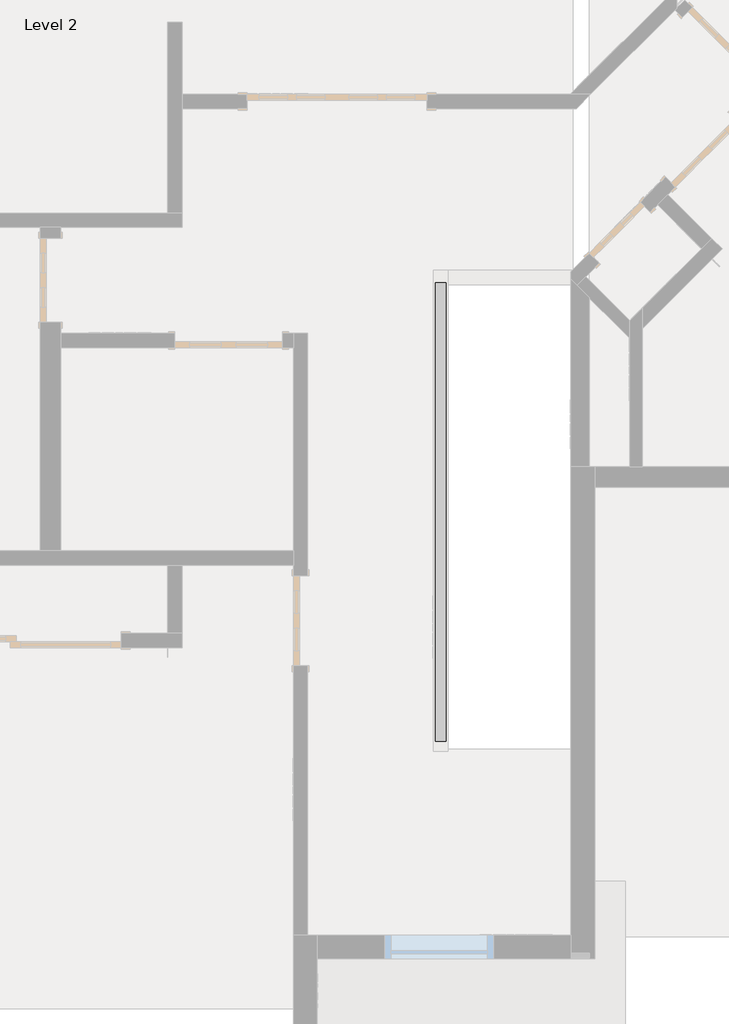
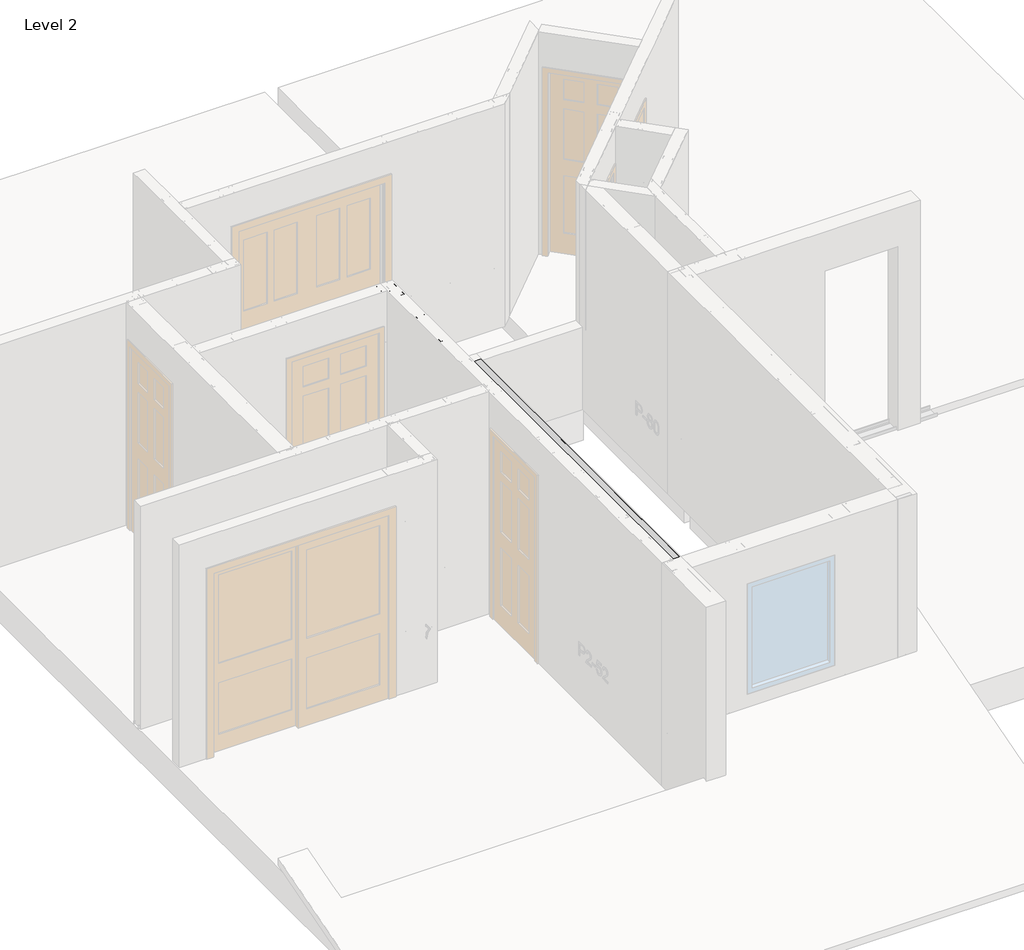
# One storey, part 15 of 46: 8 columns, 3 beams.
"""IFC4 building model written with IfcOpenShell, lengths in millimetres."""

from ifc_helpers import new_model, si_unit, point, frame, origin, place, context, project, spatial, circle_curve, ellipse_curve, trimmed, transform, mapped, element, save
from ifc_brep_helpers import plane_surface, extruded_surface, advanced_brep
from components import beam_350nf150_33_de9c2924, beam_350nf150_33_13dd2c0c, column_350nf150_33_a93e9d8a

model = new_model("IFC4")

# Units and contexts
model_context = context("Model", 3, world=origin())
ifc_project = project(units=[si_unit("LENGTHUNIT", "METRE", prefix="MILLI")], contexts=[model_context])

# Site, building, storey
site = spatial("IfcSite", under=ifc_project)
building = spatial("IfcBuilding", under=site)
storey = spatial("IfcBuildingStorey", under=building, Name="Level 2", Elevation=3060.7)

# Beams
placement = place(None, origin())
beam_350nf150_33_shape = beam_350nf150_33_de9c2924(model_context)
element("IfcBeam", 1, ObjectType="BIMSF-SSMA-S : 350NF150-33", at=placement, inside=storey, context=model_context, shape_type="MappedRepresentation", body=[
    mapped(beam_350nf150_33_shape, transform((-10222.0413349, 6158.4401581, 3959.225), x_axis=(0.0, 1.0, 0.0), y_axis=(0.0, 0.0, 1.0), z_axis=(1.0, 0.0, 0.0))),
])
element("IfcBeam", 2, ObjectType="BIMSF-SSMA-S : 350NF150-33", at=placement, inside=storey, context=model_context, shape_type="MappedRepresentation", body=[
    mapped(beam_350nf150_33_shape, transform((-10222.0413349, 6158.4401581, 3076.575), x_axis=(0.0, 1.0000000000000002, 0.0), y_axis=(0.0, 0.0, -1.0000000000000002), z_axis=(-1.0000000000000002, 0.0, 0.0))),
])
beam_350nf150_33_2_shape = beam_350nf150_33_13dd2c0c(model_context)
element("IfcBeam", 3, ObjectType="BIMSF-SSMA-S : 350NF150-33", at=placement, inside=storey, context=model_context, shape_type="MappedRepresentation", body=[
    mapped(beam_350nf150_33_2_shape, transform((-11462.6725849, 7610.602221, 3076.575), x_axis=(1.0000000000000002, 0.0, 0.0), y_axis=(0.0, 0.0, -1.0000000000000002), z_axis=(0.0, 1.0000000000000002, 0.0))),
])

# Columns
element("IfcColumn", 4, ObjectType="BIMSF-SSMA-S-Column : 350NF150-33", at=placement, inside=storey, context=model_context, shape_type="AdvancedBrep", body=[
    advanced_brep(
    [(-11453.9413349, 7566.152221, 3061.5929687), (-11365.0413349, 7566.152221, 3061.5929687), (-11365.0413349, 7528.052221, 3061.5929687), (-11370.6988507, 7528.052221, 3061.5929687), (-11370.6988507, 7528.9345367, 3061.5929687), (-11365.9236507, 7528.9345367, 3061.5929687), (-11365.9236507, 7565.2699052, 3061.5929687), (-11453.0590191, 7565.2699052, 3061.5929687), (-11453.0590191, 7528.9345367, 3061.5929687), (-11448.2838191, 7528.9345367, 3061.5929687), (-11448.2838191, 7528.052221, 3061.5929687), (-11453.9413349, 7528.052221, 3061.5929687), (-11453.9413349, 7566.152221, 5523.6070313), (-11365.0413349, 7566.152221, 5523.6070313), (-11396.7913349, 7566.152221, 3671.1929688), (-11422.1913349, 7566.152221, 3671.1929688), (-11396.7913349, 7566.152221, 4890.3929687), (-11422.1913349, 7566.152221, 4890.3929687), (-11365.0413349, 7528.052221, 5523.6070313), (-11370.6988507, 7528.052221, 5523.6070313), (-11370.6988507, 7528.9345367, 5523.6070313), (-11365.9236507, 7528.9345367, 5523.6070313), (-11365.9236507, 7565.2699052, 5523.6070313), (-11453.0590191, 7565.2699052, 5523.6070313), (-11422.1913349, 7565.2699052, 3671.1929688), (-11396.7913349, 7565.2699052, 3671.1929688), (-11422.1913349, 7565.2699052, 4890.3929687), (-11396.7913349, 7565.2699052, 4890.3929687), (-11453.0590191, 7528.9345367, 5523.6070313), (-11448.2838191, 7528.9345367, 5523.6070313), (-11448.2838191, 7528.052221, 5523.6070313), (-11453.9413349, 7528.052221, 5523.6070313)],
    [
        (0, 1),
        (1, 2),
        (2, 3),
        (3, 4),
        (4, 5),
        (5, 6),
        (6, 7),
        (7, 8),
        (8, 9),
        (9, 10),
        (10, 11),
        (11, 0),
        (0, 12),
        (12, 13),
        (13, 1),
        (14, 15, circle_curve(frame((-11409.4913349, 7566.152221, 3671.1929688), z_axis=(0.0, -1.0, 0.0), x_axis=(1.0, 0.0, 0.0)), 12.7)),
        (15, 14, circle_curve(frame((-11409.4913349, 7566.152221, 3671.1929687), z_axis=(0.0, -1.0, 0.0), x_axis=(1.0, 0.0, 0.0)), 12.7)),
        (16, 17, circle_curve(frame((-11409.4913349, 7566.152221, 4890.3929687), z_axis=(0.0, -1.0, 0.0), x_axis=(1.0, 0.0, 0.0)), 12.7)),
        (17, 16, circle_curve(frame((-11409.4913349, 7566.152221, 4890.3929687), z_axis=(0.0, -1.0, 0.0), x_axis=(1.0, 0.0, 0.0)), 12.7)),
        (13, 18),
        (18, 2),
        (18, 19),
        (19, 3),
        (19, 20),
        (20, 4),
        (20, 21),
        (21, 5),
        (21, 22),
        (22, 6),
        (22, 23),
        (23, 7),
        (24, 25, circle_curve(frame((-11409.4913349, 7565.2699052, 3671.1929688), z_axis=(0.0, 1.0, 0.0), x_axis=(1.0, 0.0, 0.0)), 12.7)),
        (25, 24, circle_curve(frame((-11409.4913349, 7565.2699052, 3671.1929688), z_axis=(0.0, 1.0, 0.0), x_axis=(1.0, 0.0, 0.0)), 12.7)),
        (26, 27, circle_curve(frame((-11409.4913349, 7565.2699052, 4890.3929687), z_axis=(0.0, 1.0, 0.0), x_axis=(1.0, 0.0, 0.0)), 12.7)),
        (27, 26, circle_curve(frame((-11409.4913349, 7565.2699052, 4890.3929687), z_axis=(0.0, 1.0, 0.0), x_axis=(1.0, 0.0, 0.0)), 12.7)),
        (23, 28),
        (28, 8),
        (28, 29),
        (29, 9),
        (29, 30),
        (30, 10),
        (30, 31),
        (31, 11),
        (31, 12),
        (24, 15),
        (14, 25),
        (26, 17),
        (16, 27),
    ],
    [
        plane_surface(frame((-11453.9413349, 7566.152221, 3061.5929687), z_axis=(0.0, 0.0, -1.0), x_axis=(0.0, 1.0, 0.0))),
        plane_surface(frame((-11365.0413349, 7566.152221, 5523.6070313), z_axis=(0.0, 1.0, 0.0), x_axis=(0.0, 0.0, -1.0))),
        plane_surface(frame((-11365.0413349, 7528.052221, 5523.6070313), z_axis=(1.0, 0.0, 0.0), x_axis=(0.0, 0.0, -1.0))),
        plane_surface(frame((-11370.6988507, 7528.052221, 5523.6070313), z_axis=(0.0, -1.0, 0.0), x_axis=(0.0, 0.0, -1.0))),
        plane_surface(frame((-11370.6988507, 7528.9345367, 5523.6070313), z_axis=(-1.0, 0.0, 0.0), x_axis=(0.0, 0.0, -1.0))),
        plane_surface(frame((-11365.9236507, 7528.9345367, 5523.6070313), z_axis=(0.0, 1.0, 0.0), x_axis=(0.0, 0.0, -1.0))),
        plane_surface(frame((-11365.9236507, 7565.2699052, 5523.6070313), z_axis=(-1.0, 0.0, 0.0), x_axis=(0.0, 0.0, -1.0))),
        plane_surface(frame((-11453.0590191, 7565.2699052, 5523.6070313), z_axis=(0.0, -1.0, 0.0), x_axis=(0.0, 0.0, -1.0))),
        plane_surface(frame((-11453.0590191, 7528.9345367, 5523.6070313), z_axis=(1.0, 0.0, 0.0), x_axis=(0.0, 0.0, -1.0))),
        plane_surface(frame((-11448.2838191, 7528.9345367, 5523.6070313), z_axis=(0.0, 1.0, 0.0), x_axis=(0.0, 0.0, -1.0))),
        plane_surface(frame((-11448.2838191, 7528.052221, 5523.6070313), z_axis=(1.0, 0.0, 0.0), x_axis=(0.0, 0.0, -1.0))),
        plane_surface(frame((-11453.9413349, 7528.052221, 5523.6070313), z_axis=(0.0, -1.0, 0.0), x_axis=(0.0, 0.0, -1.0))),
        plane_surface(frame((-11453.9413349, 7566.152221, 5523.6070313), z_axis=(-1.0, 0.0, 0.0), x_axis=(0.0, 0.0, -1.0))),
        plane_surface(frame((-11453.9413349, 7566.152221, 5523.6070313), z_axis=(0.0, 0.0, 1.0), x_axis=(0.0, -1.0, 0.0))),
        extruded_surface(trimmed(ellipse_curve(frame((-11409.4913349, 5085.0881585, 3671.1929688), z_axis=(0.0, 1.0, 0.0), x_axis=(1.0, 0.0, 0.0)), 12.7, 12.7), [point((-11422.1913349, 5085.0881585, 3671.1929688))], [point((-11396.7913349, 5085.0881585, 3671.1929688))], True, "CARTESIAN"), (0.0, -4924.028125, 0.0), 4924.028125),
        extruded_surface(trimmed(ellipse_curve(frame((-11409.4913349, 5085.0881585, 3671.1929688), z_axis=(0.0, 1.0, 0.0), x_axis=(1.0, 0.0, 0.0)), 12.7, 12.7), [point((-11396.7913349, 5085.0881585, 3671.1929688))], [point((-11422.1913349, 5085.0881585, 3671.1929688))], True, "CARTESIAN"), (0.0, -4924.028125, 0.0), 4924.028125),
        extruded_surface(trimmed(ellipse_curve(frame((-11409.4913349, 5085.0881585, 4890.3929687), z_axis=(0.0, 1.0, 0.0), x_axis=(1.0, 0.0, 0.0)), 12.7, 12.7), [point((-11422.1913349, 5085.0881585, 4890.3929687))], [point((-11396.7913349, 5085.0881585, 4890.3929687))], True, "CARTESIAN"), (0.0, -4924.028125, 0.0), 4924.028125),
        extruded_surface(trimmed(ellipse_curve(frame((-11409.4913349, 5085.0881585, 4890.3929687), z_axis=(0.0, 1.0, 0.0), x_axis=(1.0, 0.0, 0.0)), 12.7, 12.7), [point((-11396.7913349, 5085.0881585, 4890.3929687))], [point((-11422.1913349, 5085.0881585, 4890.3929687))], True, "CARTESIAN"), (0.0, -4924.028125, 0.0), 4924.028125),
    ],
    [
        (0, [[1, 2, 3, 4, 5, 6, 7, 8, 9, 10, 11, 12]]),
        (1, [[-1, 13, 14, 15], [16, 17], [18, 19]]),
        (2, [[-2, -15, 20, 21]]),
        (3, [[-3, -21, 22, 23]]),
        (4, [[-4, -23, 24, 25]]),
        (5, [[-5, -25, 26, 27]]),
        (6, [[-6, -27, 28, 29]]),
        (7, [[-7, -29, 30, 31], [32, 33], [34, 35]]),
        (8, [[-8, -31, 36, 37]]),
        (9, [[-9, -37, 38, 39]]),
        (10, [[-10, -39, 40, 41]]),
        (11, [[-11, -41, 42, 43]]),
        (12, [[-12, -43, 44, -13]]),
        (13, [[-14, -44, -42, -40, -38, -36, -30, -28, -26, -24, -22, -20]]),
        (14, [[45, -16, 46, -32]]),
        (15, [[-45, -33, -46, -17]]),
        (16, [[47, -18, 48, -34]]),
        (17, [[-47, -35, -48, -19]]),
    ],
),
])
element("IfcColumn", 5, ObjectType="BIMSF-SSMA-S-Column : 350NF150-33", at=placement, inside=storey, context=model_context, shape_type="AdvancedBrep", body=[
    advanced_brep(
    [(-11365.0413349, 6607.302221, 3061.5929687), (-11453.9413349, 6607.302221, 3061.5929687), (-11453.9413349, 6645.402221, 3061.5929687), (-11448.2838191, 6645.402221, 3061.5929687), (-11448.2838191, 6644.5199052, 3061.5929687), (-11453.0590191, 6644.5199052, 3061.5929687), (-11453.0590191, 6608.1845367, 3061.5929687), (-11365.9236507, 6608.1845367, 3061.5929687), (-11365.9236507, 6644.5199052, 3061.5929687), (-11370.6988507, 6644.5199052, 3061.5929687), (-11370.6988507, 6645.402221, 3061.5929687), (-11365.0413349, 6645.402221, 3061.5929687), (-11365.0413349, 6607.302221, 5523.6070313), (-11453.9413349, 6607.302221, 5523.6070313), (-11422.1913349, 6607.302221, 3671.1929687), (-11396.7913349, 6607.302221, 3671.1929687), (-11422.1913349, 6607.302221, 4890.3929687), (-11396.7913349, 6607.302221, 4890.3929687), (-11453.9413349, 6645.402221, 5523.6070313), (-11448.2838191, 6645.402221, 5523.6070313), (-11448.2838191, 6644.5199052, 5523.6070313), (-11453.0590191, 6644.5199052, 5523.6070313), (-11453.0590191, 6608.1845367, 5523.6070313), (-11365.9236507, 6608.1845367, 5523.6070313), (-11396.7913349, 6608.1845367, 3671.1929688), (-11422.1913349, 6608.1845367, 3671.1929688), (-11396.7913349, 6608.1845367, 4890.3929687), (-11422.1913349, 6608.1845367, 4890.3929687), (-11365.9236507, 6644.5199052, 5523.6070313), (-11370.6988507, 6644.5199052, 5523.6070313), (-11370.6988507, 6645.402221, 5523.6070313), (-11365.0413349, 6645.402221, 5523.6070313)],
    [
        (0, 1),
        (1, 2),
        (2, 3),
        (3, 4),
        (4, 5),
        (5, 6),
        (6, 7),
        (7, 8),
        (8, 9),
        (9, 10),
        (10, 11),
        (11, 0),
        (0, 12),
        (12, 13),
        (13, 1),
        (14, 15, circle_curve(frame((-11409.4913349, 6607.302221, 3671.1929688), z_axis=(0.0, 1.0, 0.0), x_axis=(-1.0, 0.0, 0.0)), 12.7)),
        (15, 14, circle_curve(frame((-11409.4913349, 6607.302221, 3671.1929688), z_axis=(0.0, 1.0, 0.0), x_axis=(-1.0, 0.0, 0.0)), 12.7)),
        (16, 17, circle_curve(frame((-11409.4913349, 6607.302221, 4890.3929687), z_axis=(0.0, 1.0, 0.0), x_axis=(-1.0, 0.0, 0.0)), 12.7)),
        (17, 16, circle_curve(frame((-11409.4913349, 6607.302221, 4890.3929687), z_axis=(0.0, 1.0, 0.0), x_axis=(-1.0, 0.0, 0.0)), 12.7)),
        (13, 18),
        (18, 2),
        (18, 19),
        (19, 3),
        (19, 20),
        (20, 4),
        (20, 21),
        (21, 5),
        (21, 22),
        (22, 6),
        (22, 23),
        (23, 7),
        (24, 25, circle_curve(frame((-11409.4913349, 6608.1845367, 3671.1929687), z_axis=(0.0, -1.0, 0.0), x_axis=(-1.0, 0.0, 0.0)), 12.7)),
        (25, 24, circle_curve(frame((-11409.4913349, 6608.1845367, 3671.1929688), z_axis=(0.0, -1.0, 0.0), x_axis=(-1.0, 0.0, 0.0)), 12.7)),
        (26, 27, circle_curve(frame((-11409.4913349, 6608.1845367, 4890.3929687), z_axis=(0.0, -1.0, 0.0), x_axis=(-1.0, 0.0, 0.0)), 12.7)),
        (27, 26, circle_curve(frame((-11409.4913349, 6608.1845367, 4890.3929687), z_axis=(0.0, -1.0, 0.0), x_axis=(-1.0, 0.0, 0.0)), 12.7)),
        (23, 28),
        (28, 8),
        (28, 29),
        (29, 9),
        (29, 30),
        (30, 10),
        (30, 31),
        (31, 11),
        (31, 12),
        (24, 15),
        (14, 25),
        (26, 17),
        (16, 27),
    ],
    [
        plane_surface(frame((-11365.0413349, 6607.302221, 3061.5929687), z_axis=(0.0, 0.0, -1.0), x_axis=(0.0, -1.0, 0.0))),
        plane_surface(frame((-11453.9413349, 6607.302221, 5523.6070313), z_axis=(0.0, -1.0, 0.0), x_axis=(0.0, 0.0, -1.0))),
        plane_surface(frame((-11453.9413349, 6645.402221, 5523.6070313), z_axis=(-1.0, 0.0, 0.0), x_axis=(0.0, 0.0, -1.0))),
        plane_surface(frame((-11448.2838191, 6645.402221, 5523.6070313), z_axis=(0.0, 1.0, 0.0), x_axis=(0.0, 0.0, -1.0))),
        plane_surface(frame((-11448.2838191, 6644.5199052, 5523.6070313), z_axis=(1.0, 0.0, 0.0), x_axis=(0.0, 0.0, -1.0))),
        plane_surface(frame((-11453.0590191, 6644.5199052, 5523.6070313), z_axis=(0.0, -1.0, 0.0), x_axis=(0.0, 0.0, -1.0))),
        plane_surface(frame((-11453.0590191, 6608.1845367, 5523.6070313), z_axis=(1.0, 0.0, 0.0), x_axis=(0.0, 0.0, -1.0))),
        plane_surface(frame((-11365.9236507, 6608.1845367, 5523.6070313), z_axis=(0.0, 1.0, 0.0), x_axis=(0.0, 0.0, -1.0))),
        plane_surface(frame((-11365.9236507, 6644.5199052, 5523.6070313), z_axis=(-1.0, 0.0, 0.0), x_axis=(0.0, 0.0, -1.0))),
        plane_surface(frame((-11370.6988507, 6644.5199052, 5523.6070313), z_axis=(0.0, -1.0, 0.0), x_axis=(0.0, 0.0, -1.0))),
        plane_surface(frame((-11370.6988507, 6645.402221, 5523.6070313), z_axis=(-1.0, 0.0, 0.0), x_axis=(0.0, 0.0, -1.0))),
        plane_surface(frame((-11365.0413349, 6645.402221, 5523.6070313), z_axis=(0.0, 1.0, 0.0), x_axis=(0.0, 0.0, -1.0))),
        plane_surface(frame((-11365.0413349, 6607.302221, 5523.6070313), z_axis=(1.0, 0.0, 0.0), x_axis=(0.0, 0.0, -1.0))),
        plane_surface(frame((-11365.0413349, 6607.302221, 5523.6070313), z_axis=(0.0, 0.0, 1.0), x_axis=(0.0, 1.0, 0.0))),
        extruded_surface(trimmed(ellipse_curve(frame((-11409.4913349, 9088.3662835, 3671.1929688), z_axis=(0.0, -1.0, 0.0), x_axis=(-1.0, 0.0, 0.0)), 12.7, 12.7), [point((-11396.7913349, 9088.3662835, 3671.1929688))], [point((-11422.1913349, 9088.3662835, 3671.1929688))], True, "CARTESIAN"), (0.0, 4924.028125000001, 0.0), 4924.028125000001),
        extruded_surface(trimmed(ellipse_curve(frame((-11409.4913349, 9088.3662835, 3671.1929688), z_axis=(0.0, -1.0, 0.0), x_axis=(-1.0, 0.0, 0.0)), 12.7, 12.7), [point((-11422.1913349, 9088.3662835, 3671.1929688))], [point((-11396.7913349, 9088.3662835, 3671.1929688))], True, "CARTESIAN"), (0.0, 4924.028125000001, 0.0), 4924.028125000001),
        extruded_surface(trimmed(ellipse_curve(frame((-11409.4913349, 9088.3662835, 4890.3929687), z_axis=(0.0, -1.0, 0.0), x_axis=(-1.0, 0.0, 0.0)), 12.7, 12.7), [point((-11396.7913349, 9088.3662835, 4890.3929687))], [point((-11422.1913349, 9088.3662835, 4890.3929687))], True, "CARTESIAN"), (0.0, 4924.028125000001, 0.0), 4924.028125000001),
        extruded_surface(trimmed(ellipse_curve(frame((-11409.4913349, 9088.3662835, 4890.3929687), z_axis=(0.0, -1.0, 0.0), x_axis=(-1.0, 0.0, 0.0)), 12.7, 12.7), [point((-11422.1913349, 9088.3662835, 4890.3929687))], [point((-11396.7913349, 9088.3662835, 4890.3929687))], True, "CARTESIAN"), (0.0, 4924.028125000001, 0.0), 4924.028125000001),
    ],
    [
        (0, [[1, 2, 3, 4, 5, 6, 7, 8, 9, 10, 11, 12]]),
        (1, [[-1, 13, 14, 15], [16, 17], [18, 19]]),
        (2, [[-2, -15, 20, 21]]),
        (3, [[-3, -21, 22, 23]]),
        (4, [[-4, -23, 24, 25]]),
        (5, [[-5, -25, 26, 27]]),
        (6, [[-6, -27, 28, 29]]),
        (7, [[-7, -29, 30, 31], [32, 33], [34, 35]]),
        (8, [[-8, -31, 36, 37]]),
        (9, [[-9, -37, 38, 39]]),
        (10, [[-10, -39, 40, 41]]),
        (11, [[-11, -41, 42, 43]]),
        (12, [[-12, -43, 44, -13]]),
        (13, [[-14, -44, -42, -40, -38, -36, -30, -28, -26, -24, -22, -20]]),
        (14, [[45, -16, 46, -32]]),
        (15, [[-45, -33, -46, -17]]),
        (16, [[47, -18, 48, -34]]),
        (17, [[-47, -35, -48, -19]]),
    ],
),
])
element("IfcColumn", 6, ObjectType="BIMSF-SSMA-S-Column : 350NF150-33", at=placement, inside=storey, context=model_context, shape_type="AdvancedBrep", body=[
    advanced_brep(
    [(-11365.0413349, 7013.702221, 3061.5929687), (-11453.9413349, 7013.702221, 3061.5929687), (-11453.9413349, 7051.802221, 3061.5929687), (-11448.2838191, 7051.802221, 3061.5929687), (-11448.2838191, 7050.9199052, 3061.5929687), (-11453.0590191, 7050.9199052, 3061.5929687), (-11453.0590191, 7014.5845367, 3061.5929687), (-11365.9236507, 7014.5845367, 3061.5929687), (-11365.9236507, 7050.9199052, 3061.5929687), (-11370.6988507, 7050.9199052, 3061.5929687), (-11370.6988507, 7051.802221, 3061.5929687), (-11365.0413349, 7051.802221, 3061.5929687), (-11365.0413349, 7013.702221, 5523.6070313), (-11453.9413349, 7013.702221, 5523.6070313), (-11422.1913349, 7013.702221, 3671.1929687), (-11396.7913349, 7013.702221, 3671.1929687), (-11422.1913349, 7013.702221, 4890.3929687), (-11396.7913349, 7013.702221, 4890.3929687), (-11453.9413349, 7051.802221, 5523.6070313), (-11448.2838191, 7051.802221, 5523.6070313), (-11448.2838191, 7050.9199052, 5523.6070313), (-11453.0590191, 7050.9199052, 5523.6070313), (-11453.0590191, 7014.5845367, 5523.6070313), (-11365.9236507, 7014.5845367, 5523.6070313), (-11396.7913349, 7014.5845367, 3671.1929688), (-11422.1913349, 7014.5845367, 3671.1929688), (-11396.7913349, 7014.5845367, 4890.3929687), (-11422.1913349, 7014.5845367, 4890.3929687), (-11365.9236507, 7050.9199052, 5523.6070313), (-11370.6988507, 7050.9199052, 5523.6070313), (-11370.6988507, 7051.802221, 5523.6070313), (-11365.0413349, 7051.802221, 5523.6070313)],
    [
        (0, 1),
        (1, 2),
        (2, 3),
        (3, 4),
        (4, 5),
        (5, 6),
        (6, 7),
        (7, 8),
        (8, 9),
        (9, 10),
        (10, 11),
        (11, 0),
        (0, 12),
        (12, 13),
        (13, 1),
        (14, 15, circle_curve(frame((-11409.4913349, 7013.702221, 3671.1929688), z_axis=(0.0, 1.0, 0.0), x_axis=(-1.0, 0.0, 0.0)), 12.7)),
        (15, 14, circle_curve(frame((-11409.4913349, 7013.702221, 3671.1929688), z_axis=(0.0, 1.0, 0.0), x_axis=(-1.0, 0.0, 0.0)), 12.7)),
        (16, 17, circle_curve(frame((-11409.4913349, 7013.702221, 4890.3929687), z_axis=(0.0, 1.0, 0.0), x_axis=(-1.0, 0.0, 0.0)), 12.7)),
        (17, 16, circle_curve(frame((-11409.4913349, 7013.702221, 4890.3929687), z_axis=(0.0, 1.0, 0.0), x_axis=(-1.0, 0.0, 0.0)), 12.7)),
        (13, 18),
        (18, 2),
        (18, 19),
        (19, 3),
        (19, 20),
        (20, 4),
        (20, 21),
        (21, 5),
        (21, 22),
        (22, 6),
        (22, 23),
        (23, 7),
        (24, 25, circle_curve(frame((-11409.4913349, 7014.5845367, 3671.1929687), z_axis=(0.0, -1.0, 0.0), x_axis=(-1.0, 0.0, 0.0)), 12.7)),
        (25, 24, circle_curve(frame((-11409.4913349, 7014.5845367, 3671.1929688), z_axis=(0.0, -1.0, 0.0), x_axis=(-1.0, 0.0, 0.0)), 12.7)),
        (26, 27, circle_curve(frame((-11409.4913349, 7014.5845367, 4890.3929687), z_axis=(0.0, -1.0, 0.0), x_axis=(-1.0, 0.0, 0.0)), 12.7)),
        (27, 26, circle_curve(frame((-11409.4913349, 7014.5845367, 4890.3929687), z_axis=(0.0, -1.0, 0.0), x_axis=(-1.0, 0.0, 0.0)), 12.7)),
        (23, 28),
        (28, 8),
        (28, 29),
        (29, 9),
        (29, 30),
        (30, 10),
        (30, 31),
        (31, 11),
        (31, 12),
        (24, 15),
        (14, 25),
        (26, 17),
        (16, 27),
    ],
    [
        plane_surface(frame((-11365.0413349, 7013.702221, 3061.5929687), z_axis=(0.0, 0.0, -1.0), x_axis=(0.0, -1.0, 0.0))),
        plane_surface(frame((-11453.9413349, 7013.702221, 5523.6070313), z_axis=(0.0, -1.0, 0.0), x_axis=(0.0, 0.0, -1.0))),
        plane_surface(frame((-11453.9413349, 7051.802221, 5523.6070313), z_axis=(-1.0, 0.0, 0.0), x_axis=(0.0, 0.0, -1.0))),
        plane_surface(frame((-11448.2838191, 7051.802221, 5523.6070313), z_axis=(0.0, 1.0, 0.0), x_axis=(0.0, 0.0, -1.0))),
        plane_surface(frame((-11448.2838191, 7050.9199052, 5523.6070313), z_axis=(1.0, 0.0, 0.0), x_axis=(0.0, 0.0, -1.0))),
        plane_surface(frame((-11453.0590191, 7050.9199052, 5523.6070313), z_axis=(0.0, -1.0, 0.0), x_axis=(0.0, 0.0, -1.0))),
        plane_surface(frame((-11453.0590191, 7014.5845367, 5523.6070313), z_axis=(1.0, 0.0, 0.0), x_axis=(0.0, 0.0, -1.0))),
        plane_surface(frame((-11365.9236507, 7014.5845367, 5523.6070313), z_axis=(0.0, 1.0, 0.0), x_axis=(0.0, 0.0, -1.0))),
        plane_surface(frame((-11365.9236507, 7050.9199052, 5523.6070313), z_axis=(-1.0, 0.0, 0.0), x_axis=(0.0, 0.0, -1.0))),
        plane_surface(frame((-11370.6988507, 7050.9199052, 5523.6070313), z_axis=(0.0, -1.0, 0.0), x_axis=(0.0, 0.0, -1.0))),
        plane_surface(frame((-11370.6988507, 7051.802221, 5523.6070313), z_axis=(-1.0, 0.0, 0.0), x_axis=(0.0, 0.0, -1.0))),
        plane_surface(frame((-11365.0413349, 7051.802221, 5523.6070313), z_axis=(0.0, 1.0, 0.0), x_axis=(0.0, 0.0, -1.0))),
        plane_surface(frame((-11365.0413349, 7013.702221, 5523.6070313), z_axis=(1.0, 0.0, 0.0), x_axis=(0.0, 0.0, -1.0))),
        plane_surface(frame((-11365.0413349, 7013.702221, 5523.6070313), z_axis=(0.0, 0.0, 1.0), x_axis=(0.0, 1.0, 0.0))),
        extruded_surface(trimmed(ellipse_curve(frame((-11409.4913349, 9494.7662835, 3671.1929688), z_axis=(0.0, -1.0, 0.0), x_axis=(-1.0, 0.0, 0.0)), 12.7, 12.7), [point((-11396.7913349, 9494.7662835, 3671.1929688))], [point((-11422.1913349, 9494.7662835, 3671.1929688))], True, "CARTESIAN"), (0.0, 4924.028125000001, 0.0), 4924.028125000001),
        extruded_surface(trimmed(ellipse_curve(frame((-11409.4913349, 9494.7662835, 3671.1929688), z_axis=(0.0, -1.0, 0.0), x_axis=(-1.0, 0.0, 0.0)), 12.7, 12.7), [point((-11422.1913349, 9494.7662835, 3671.1929688))], [point((-11396.7913349, 9494.7662835, 3671.1929688))], True, "CARTESIAN"), (0.0, 4924.028125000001, 0.0), 4924.028125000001),
        extruded_surface(trimmed(ellipse_curve(frame((-11409.4913349, 9494.7662835, 4890.3929687), z_axis=(0.0, -1.0, 0.0), x_axis=(-1.0, 0.0, 0.0)), 12.7, 12.7), [point((-11396.7913349, 9494.7662835, 4890.3929687))], [point((-11422.1913349, 9494.7662835, 4890.3929687))], True, "CARTESIAN"), (0.0, 4924.028125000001, 0.0), 4924.028125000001),
        extruded_surface(trimmed(ellipse_curve(frame((-11409.4913349, 9494.7662835, 4890.3929687), z_axis=(0.0, -1.0, 0.0), x_axis=(-1.0, 0.0, 0.0)), 12.7, 12.7), [point((-11422.1913349, 9494.7662835, 4890.3929687))], [point((-11396.7913349, 9494.7662835, 4890.3929687))], True, "CARTESIAN"), (0.0, 4924.028125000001, 0.0), 4924.028125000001),
    ],
    [
        (0, [[1, 2, 3, 4, 5, 6, 7, 8, 9, 10, 11, 12]]),
        (1, [[-1, 13, 14, 15], [16, 17], [18, 19]]),
        (2, [[-2, -15, 20, 21]]),
        (3, [[-3, -21, 22, 23]]),
        (4, [[-4, -23, 24, 25]]),
        (5, [[-5, -25, 26, 27]]),
        (6, [[-6, -27, 28, 29]]),
        (7, [[-7, -29, 30, 31], [32, 33], [34, 35]]),
        (8, [[-8, -31, 36, 37]]),
        (9, [[-9, -37, 38, 39]]),
        (10, [[-10, -39, 40, 41]]),
        (11, [[-11, -41, 42, 43]]),
        (12, [[-12, -43, 44, -13]]),
        (13, [[-14, -44, -42, -40, -38, -36, -30, -28, -26, -24, -22, -20]]),
        (14, [[45, -16, 46, -32]]),
        (15, [[-45, -33, -46, -17]]),
        (16, [[47, -18, 48, -34]]),
        (17, [[-47, -35, -48, -19]]),
    ],
),
])
element("IfcColumn", 7, ObjectType="BIMSF-SSMA-S-Column : 350NF150-33", at=placement, inside=storey, context=model_context, shape_type="AdvancedBrep", body=[
    advanced_brep(
    [(-10177.5913349, 6232.3849099, 3061.5929687), (-10266.4913349, 6232.3849099, 3061.5929687), (-10266.4913349, 6270.4849099, 3061.5929687), (-10260.8338191, 6270.4849099, 3061.5929687), (-10260.8338191, 6269.6025941, 3061.5929687), (-10265.6090191, 6269.6025941, 3061.5929687), (-10265.6090191, 6233.2672257, 3061.5929687), (-10178.4736507, 6233.2672257, 3061.5929687), (-10178.4736507, 6269.6025941, 3061.5929687), (-10183.2488507, 6269.6025941, 3061.5929687), (-10183.2488507, 6270.4849099, 3061.5929687), (-10177.5913349, 6270.4849099, 3061.5929687), (-10177.5913349, 6232.3849099, 3974.2070312), (-10266.4913349, 6232.3849099, 3974.2070312), (-10234.7413349, 6232.3849099, 3671.1929688), (-10209.3413349, 6232.3849099, 3671.1929688), (-10266.4913349, 6270.4849099, 3974.2070312), (-10260.8338191, 6270.4849099, 3974.2070312), (-10260.8338191, 6269.6025941, 3974.2070312), (-10265.6090191, 6269.6025941, 3974.2070312), (-10265.6090191, 6233.2672257, 3974.2070312), (-10178.4736507, 6233.2672257, 3974.2070312), (-10209.3413349, 6233.2672257, 3671.1929688), (-10234.7413349, 6233.2672257, 3671.1929688), (-10178.4736507, 6269.6025941, 3974.2070312), (-10183.2488507, 6269.6025941, 3974.2070312), (-10183.2488507, 6270.4849099, 3974.2070312), (-10177.5913349, 6270.4849099, 3974.2070312)],
    [
        (0, 1),
        (1, 2),
        (2, 3),
        (3, 4),
        (4, 5),
        (5, 6),
        (6, 7),
        (7, 8),
        (8, 9),
        (9, 10),
        (10, 11),
        (11, 0),
        (0, 12),
        (12, 13),
        (13, 1),
        (14, 15, circle_curve(frame((-10222.0413349, 6232.3849099, 3671.1929687), z_axis=(0.0, 1.0, 0.0), x_axis=(-1.0, 0.0, 0.0)), 12.7)),
        (15, 14, circle_curve(frame((-10222.0413349, 6232.3849099, 3671.1929688), z_axis=(0.0, 1.0, 0.0), x_axis=(-1.0, 0.0, 0.0)), 12.7)),
        (13, 16),
        (16, 2),
        (16, 17),
        (17, 3),
        (17, 18),
        (18, 4),
        (18, 19),
        (19, 5),
        (19, 20),
        (20, 6),
        (20, 21),
        (21, 7),
        (22, 23, circle_curve(frame((-10222.0413349, 6233.2672257, 3671.1929688), z_axis=(0.0, -1.0, 0.0), x_axis=(-1.0, 0.0, 0.0)), 12.7)),
        (23, 22, circle_curve(frame((-10222.0413349, 6233.2672257, 3671.1929688), z_axis=(0.0, -1.0, 0.0), x_axis=(-1.0, 0.0, 0.0)), 12.7)),
        (21, 24),
        (24, 8),
        (24, 25),
        (25, 9),
        (25, 26),
        (26, 10),
        (26, 27),
        (27, 11),
        (27, 12),
        (22, 15),
        (14, 23),
    ],
    [
        plane_surface(frame((-10177.5913349, 6232.3849099, 3061.5929687), z_axis=(0.0, 0.0, -1.0), x_axis=(0.0, -1.0, 0.0))),
        plane_surface(frame((-10266.4913349, 6232.3849099, 3974.2070312), z_axis=(0.0, -1.0, 0.0), x_axis=(0.0, 0.0, -1.0))),
        plane_surface(frame((-10266.4913349, 6270.4849099, 3974.2070312), z_axis=(-1.0, 0.0, 0.0), x_axis=(0.0, 0.0, -1.0))),
        plane_surface(frame((-10260.8338191, 6270.4849099, 3974.2070312), z_axis=(0.0, 1.0, 0.0), x_axis=(0.0, 0.0, -1.0))),
        plane_surface(frame((-10260.8338191, 6269.6025941, 3974.2070312), z_axis=(1.0, 0.0, 0.0), x_axis=(0.0, 0.0, -1.0))),
        plane_surface(frame((-10265.6090191, 6269.6025941, 3974.2070312), z_axis=(0.0, -1.0, 0.0), x_axis=(0.0, 0.0, -1.0))),
        plane_surface(frame((-10265.6090191, 6233.2672257, 3974.2070312), z_axis=(1.0, 0.0, 0.0), x_axis=(0.0, 0.0, -1.0))),
        plane_surface(frame((-10178.4736507, 6233.2672257, 3974.2070312), z_axis=(0.0, 1.0, 0.0), x_axis=(0.0, 0.0, -1.0))),
        plane_surface(frame((-10178.4736507, 6269.6025941, 3974.2070312), z_axis=(-1.0, 0.0, 0.0), x_axis=(0.0, 0.0, -1.0))),
        plane_surface(frame((-10183.2488507, 6269.6025941, 3974.2070312), z_axis=(0.0, -1.0, 0.0), x_axis=(0.0, 0.0, -1.0))),
        plane_surface(frame((-10183.2488507, 6270.4849099, 3974.2070312), z_axis=(-1.0, 0.0, 0.0), x_axis=(0.0, 0.0, -1.0))),
        plane_surface(frame((-10177.5913349, 6270.4849099, 3974.2070312), z_axis=(0.0, 1.0, 0.0), x_axis=(0.0, 0.0, -1.0))),
        plane_surface(frame((-10177.5913349, 6232.3849099, 3974.2070312), z_axis=(1.0, 0.0, 0.0), x_axis=(0.0, 0.0, -1.0))),
        plane_surface(frame((-10177.5913349, 6232.3849099, 3974.2070312), z_axis=(0.0, 0.0, 1.0), x_axis=(0.0, 1.0, 0.0))),
        extruded_surface(trimmed(ellipse_curve(frame((-10222.0413349, 7164.0489724, 3671.1929688), z_axis=(0.0, -1.0, 0.0), x_axis=(-1.0, 0.0, 0.0)), 12.7, 12.7), [point((-10209.3413349, 7164.0489724, 3671.1929688))], [point((-10234.7413349, 7164.0489724, 3671.1929688))], True, "CARTESIAN"), (0.0, 1825.2281249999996, 0.0), 1825.2281249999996),
        extruded_surface(trimmed(ellipse_curve(frame((-10222.0413349, 7164.0489724, 3671.1929688), z_axis=(0.0, -1.0, 0.0), x_axis=(-1.0, 0.0, 0.0)), 12.7, 12.7), [point((-10234.7413349, 7164.0489724, 3671.1929688))], [point((-10209.3413349, 7164.0489724, 3671.1929688))], True, "CARTESIAN"), (0.0, 1825.2281249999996, 0.0), 1825.2281249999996),
    ],
    [
        (0, [[1, 2, 3, 4, 5, 6, 7, 8, 9, 10, 11, 12]]),
        (1, [[-1, 13, 14, 15], [16, 17]]),
        (2, [[-2, -15, 18, 19]]),
        (3, [[-3, -19, 20, 21]]),
        (4, [[-4, -21, 22, 23]]),
        (5, [[-5, -23, 24, 25]]),
        (6, [[-6, -25, 26, 27]]),
        (7, [[-7, -27, 28, 29], [30, 31]]),
        (8, [[-8, -29, 32, 33]]),
        (9, [[-9, -33, 34, 35]]),
        (10, [[-10, -35, 36, 37]]),
        (11, [[-11, -37, 38, 39]]),
        (12, [[-12, -39, 40, -13]]),
        (13, [[-14, -40, -38, -36, -34, -32, -28, -26, -24, -22, -20, -18]]),
        (14, [[41, -16, 42, -30]]),
        (15, [[-41, -31, -42, -17]]),
    ],
),
])
element("IfcColumn", 8, ObjectType="BIMSF-SSMA-S-Column : 350NF150-33", at=placement, inside=storey, context=model_context, shape_type="AdvancedBrep", body=[
    advanced_brep(
    [(-10177.5913349, 6638.7849099, 3061.5929687), (-10266.4913349, 6638.7849099, 3061.5929687), (-10266.4913349, 6676.8849099, 3061.5929687), (-10260.8338191, 6676.8849099, 3061.5929687), (-10260.8338191, 6676.0025941, 3061.5929687), (-10265.6090191, 6676.0025941, 3061.5929687), (-10265.6090191, 6639.6672257, 3061.5929687), (-10178.4736507, 6639.6672257, 3061.5929687), (-10178.4736507, 6676.0025941, 3061.5929687), (-10183.2488507, 6676.0025941, 3061.5929687), (-10183.2488507, 6676.8849099, 3061.5929687), (-10177.5913349, 6676.8849099, 3061.5929687), (-10177.5913349, 6638.7849099, 3974.2070312), (-10266.4913349, 6638.7849099, 3974.2070312), (-10234.7413349, 6638.7849099, 3671.1929688), (-10209.3413349, 6638.7849099, 3671.1929688), (-10266.4913349, 6676.8849099, 3974.2070312), (-10260.8338191, 6676.8849099, 3974.2070312), (-10260.8338191, 6676.0025941, 3974.2070312), (-10265.6090191, 6676.0025941, 3974.2070312), (-10265.6090191, 6639.6672257, 3974.2070312), (-10178.4736507, 6639.6672257, 3974.2070312), (-10209.3413349, 6639.6672257, 3671.1929688), (-10234.7413349, 6639.6672257, 3671.1929688), (-10178.4736507, 6676.0025941, 3974.2070312), (-10183.2488507, 6676.0025941, 3974.2070312), (-10183.2488507, 6676.8849099, 3974.2070312), (-10177.5913349, 6676.8849099, 3974.2070312)],
    [
        (0, 1),
        (1, 2),
        (2, 3),
        (3, 4),
        (4, 5),
        (5, 6),
        (6, 7),
        (7, 8),
        (8, 9),
        (9, 10),
        (10, 11),
        (11, 0),
        (0, 12),
        (12, 13),
        (13, 1),
        (14, 15, circle_curve(frame((-10222.0413349, 6638.7849099, 3671.1929688), z_axis=(0.0, 1.0, 0.0), x_axis=(-1.0, 0.0, 0.0)), 12.7)),
        (15, 14, circle_curve(frame((-10222.0413349, 6638.7849099, 3671.1929688), z_axis=(0.0, 1.0, 0.0), x_axis=(-1.0, 0.0, 0.0)), 12.7)),
        (13, 16),
        (16, 2),
        (16, 17),
        (17, 3),
        (17, 18),
        (18, 4),
        (18, 19),
        (19, 5),
        (19, 20),
        (20, 6),
        (20, 21),
        (21, 7),
        (22, 23, circle_curve(frame((-10222.0413349, 6639.6672257, 3671.1929688), z_axis=(0.0, -1.0, 0.0), x_axis=(-1.0, 0.0, 0.0)), 12.7)),
        (23, 22, circle_curve(frame((-10222.0413349, 6639.6672257, 3671.1929688), z_axis=(0.0, -1.0, 0.0), x_axis=(-1.0, 0.0, 0.0)), 12.7)),
        (21, 24),
        (24, 8),
        (24, 25),
        (25, 9),
        (25, 26),
        (26, 10),
        (26, 27),
        (27, 11),
        (27, 12),
        (22, 15),
        (14, 23),
    ],
    [
        plane_surface(frame((-10177.5913349, 6638.7849099, 3061.5929687), z_axis=(0.0, 0.0, -1.0), x_axis=(0.0, -1.0, 0.0))),
        plane_surface(frame((-10266.4913349, 6638.7849099, 3974.2070312), z_axis=(0.0, -1.0, 0.0), x_axis=(0.0, 0.0, -1.0))),
        plane_surface(frame((-10266.4913349, 6676.8849099, 3974.2070312), z_axis=(-1.0, 0.0, 0.0), x_axis=(0.0, 0.0, -1.0))),
        plane_surface(frame((-10260.8338191, 6676.8849099, 3974.2070312), z_axis=(0.0, 1.0, 0.0), x_axis=(0.0, 0.0, -1.0))),
        plane_surface(frame((-10260.8338191, 6676.0025941, 3974.2070312), z_axis=(1.0, 0.0, 0.0), x_axis=(0.0, 0.0, -1.0))),
        plane_surface(frame((-10265.6090191, 6676.0025941, 3974.2070312), z_axis=(0.0, -1.0, 0.0), x_axis=(0.0, 0.0, -1.0))),
        plane_surface(frame((-10265.6090191, 6639.6672257, 3974.2070312), z_axis=(1.0, 0.0, 0.0), x_axis=(0.0, 0.0, -1.0))),
        plane_surface(frame((-10178.4736507, 6639.6672257, 3974.2070312), z_axis=(0.0, 1.0, 0.0), x_axis=(0.0, 0.0, -1.0))),
        plane_surface(frame((-10178.4736507, 6676.0025941, 3974.2070312), z_axis=(-1.0, 0.0, 0.0), x_axis=(0.0, 0.0, -1.0))),
        plane_surface(frame((-10183.2488507, 6676.0025941, 3974.2070312), z_axis=(0.0, -1.0, 0.0), x_axis=(0.0, 0.0, -1.0))),
        plane_surface(frame((-10183.2488507, 6676.8849099, 3974.2070312), z_axis=(-1.0, 0.0, 0.0), x_axis=(0.0, 0.0, -1.0))),
        plane_surface(frame((-10177.5913349, 6676.8849099, 3974.2070312), z_axis=(0.0, 1.0, 0.0), x_axis=(0.0, 0.0, -1.0))),
        plane_surface(frame((-10177.5913349, 6638.7849099, 3974.2070312), z_axis=(1.0, 0.0, 0.0), x_axis=(0.0, 0.0, -1.0))),
        plane_surface(frame((-10177.5913349, 6638.7849099, 3974.2070312), z_axis=(0.0, 0.0, 1.0), x_axis=(0.0, 1.0, 0.0))),
        extruded_surface(trimmed(ellipse_curve(frame((-10222.0413349, 7570.4489724, 3671.1929688), z_axis=(0.0, -1.0, 0.0), x_axis=(-1.0, 0.0, 0.0)), 12.7, 12.7), [point((-10209.3413349, 7570.4489724, 3671.1929688))], [point((-10234.7413349, 7570.4489724, 3671.1929688))], True, "CARTESIAN"), (0.0, 1825.2281249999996, 0.0), 1825.2281249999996),
        extruded_surface(trimmed(ellipse_curve(frame((-10222.0413349, 7570.4489724, 3671.1929688), z_axis=(0.0, -1.0, 0.0), x_axis=(-1.0, 0.0, 0.0)), 12.7, 12.7), [point((-10234.7413349, 7570.4489724, 3671.1929688))], [point((-10209.3413349, 7570.4489724, 3671.1929688))], True, "CARTESIAN"), (0.0, 1825.2281249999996, 0.0), 1825.2281249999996),
    ],
    [
        (0, [[1, 2, 3, 4, 5, 6, 7, 8, 9, 10, 11, 12]]),
        (1, [[-1, 13, 14, 15], [16, 17]]),
        (2, [[-2, -15, 18, 19]]),
        (3, [[-3, -19, 20, 21]]),
        (4, [[-4, -21, 22, 23]]),
        (5, [[-5, -23, 24, 25]]),
        (6, [[-6, -25, 26, 27]]),
        (7, [[-7, -27, 28, 29], [30, 31]]),
        (8, [[-8, -29, 32, 33]]),
        (9, [[-9, -33, 34, 35]]),
        (10, [[-10, -35, 36, 37]]),
        (11, [[-11, -37, 38, 39]]),
        (12, [[-12, -39, 40, -13]]),
        (13, [[-14, -40, -38, -36, -34, -32, -28, -26, -24, -22, -20, -18]]),
        (14, [[41, -16, 42, -30]]),
        (15, [[-41, -31, -42, -17]]),
    ],
),
])
element("IfcColumn", 9, ObjectType="BIMSF-SSMA-S-Column : 350NF150-33", at=placement, inside=storey, context=model_context, shape_type="AdvancedBrep", body=[
    advanced_brep(
    [(-11365.0413349, 7655.052221, 3061.5929687), (-11365.0413349, 7566.152221, 3061.5929687), (-11403.1413349, 7566.152221, 3061.5929687), (-11403.1413349, 7571.8097367, 3061.5929687), (-11402.2590191, 7571.8097367, 3061.5929687), (-11402.2590191, 7567.0345367, 3061.5929687), (-11365.9236507, 7567.0345367, 3061.5929687), (-11365.9236507, 7654.1699052, 3061.5929687), (-11402.2590191, 7654.1699052, 3061.5929687), (-11402.2590191, 7649.3947052, 3061.5929687), (-11403.1413349, 7649.3947052, 3061.5929687), (-11403.1413349, 7655.052221, 3061.5929687), (-11365.0413349, 7655.052221, 5523.6070313), (-11365.0413349, 7566.152221, 5523.6070313), (-11365.0413349, 7597.902221, 3671.1929688), (-11365.0413349, 7623.302221, 3671.1929688), (-11365.0413349, 7597.902221, 4890.3929687), (-11365.0413349, 7623.302221, 4890.3929687), (-11403.1413349, 7566.152221, 5523.6070313), (-11403.1413349, 7571.8097367, 5523.6070313), (-11402.2590191, 7571.8097367, 5523.6070313), (-11402.2590191, 7567.0345367, 5523.6070313), (-11365.9236507, 7567.0345367, 5523.6070313), (-11365.9236507, 7654.1699052, 5523.6070313), (-11365.9236507, 7623.302221, 3671.1929688), (-11365.9236507, 7597.902221, 3671.1929688), (-11365.9236507, 7623.302221, 4890.3929687), (-11365.9236507, 7597.902221, 4890.3929688), (-11402.2590191, 7654.1699052, 5523.6070313), (-11402.2590191, 7649.3947052, 5523.6070313), (-11403.1413349, 7649.3947052, 5523.6070313), (-11403.1413349, 7655.052221, 5523.6070313)],
    [
        (0, 1),
        (1, 2),
        (2, 3),
        (3, 4),
        (4, 5),
        (5, 6),
        (6, 7),
        (7, 8),
        (8, 9),
        (9, 10),
        (10, 11),
        (11, 0),
        (0, 12),
        (12, 13),
        (13, 1),
        (14, 15, circle_curve(frame((-11365.0413349, 7610.602221, 3671.1929688), z_axis=(-1.0, 0.0, 0.0), x_axis=(0.0, -1.0, 0.0)), 12.7)),
        (15, 14, circle_curve(frame((-11365.0413349, 7610.602221, 3671.1929688), z_axis=(-1.0, 0.0, 0.0), x_axis=(0.0, -1.0, 0.0)), 12.7)),
        (16, 17, circle_curve(frame((-11365.0413349, 7610.602221, 4890.3929687), z_axis=(-1.0, 0.0, 0.0), x_axis=(0.0, -1.0, 0.0)), 12.7)),
        (17, 16, circle_curve(frame((-11365.0413349, 7610.602221, 4890.3929687), z_axis=(-1.0, 0.0, 0.0), x_axis=(0.0, -1.0, 0.0)), 12.7)),
        (13, 18),
        (18, 2),
        (18, 19),
        (19, 3),
        (19, 20),
        (20, 4),
        (20, 21),
        (21, 5),
        (21, 22),
        (22, 6),
        (22, 23),
        (23, 7),
        (24, 25, circle_curve(frame((-11365.9236507, 7610.602221, 3671.1929687), z_axis=(1.0, 0.0, 0.0), x_axis=(0.0, -1.0, 0.0)), 12.7)),
        (25, 24, circle_curve(frame((-11365.9236507, 7610.602221, 3671.1929687), z_axis=(1.0, 0.0, 0.0), x_axis=(0.0, -1.0, 0.0)), 12.7)),
        (26, 27, circle_curve(frame((-11365.9236507, 7610.602221, 4890.3929687), z_axis=(1.0, 0.0, 0.0), x_axis=(0.0, -1.0, 0.0)), 12.7)),
        (27, 26, circle_curve(frame((-11365.9236507, 7610.602221, 4890.3929687), z_axis=(1.0, 0.0, 0.0), x_axis=(0.0, -1.0, 0.0)), 12.7)),
        (23, 28),
        (28, 8),
        (28, 29),
        (29, 9),
        (29, 30),
        (30, 10),
        (30, 31),
        (31, 11),
        (31, 12),
        (24, 15),
        (14, 25),
        (26, 17),
        (16, 27),
    ],
    [
        plane_surface(frame((-11365.0413349, 7655.052221, 3061.5929687), z_axis=(0.0, 0.0, -1.0), x_axis=(1.0, 0.0, 0.0))),
        plane_surface(frame((-11365.0413349, 7566.152221, 5523.6070313), z_axis=(1.0, 0.0, 0.0), x_axis=(0.0, 0.0, -1.0))),
        plane_surface(frame((-11403.1413349, 7566.152221, 5523.6070313), z_axis=(0.0, -1.0, 0.0), x_axis=(0.0, 0.0, -1.0))),
        plane_surface(frame((-11403.1413349, 7571.8097367, 5523.6070313), z_axis=(-1.0, 0.0, 0.0), x_axis=(0.0, 0.0, -1.0))),
        plane_surface(frame((-11402.2590191, 7571.8097367, 5523.6070313), z_axis=(0.0, 1.0, 0.0), x_axis=(0.0, 0.0, -1.0))),
        plane_surface(frame((-11402.2590191, 7567.0345367, 5523.6070313), z_axis=(1.0, 0.0, 0.0), x_axis=(0.0, 0.0, -1.0))),
        plane_surface(frame((-11365.9236507, 7567.0345367, 5523.6070313), z_axis=(0.0, 1.0, 0.0), x_axis=(0.0, 0.0, -1.0))),
        plane_surface(frame((-11365.9236507, 7654.1699052, 5523.6070313), z_axis=(-1.0, 0.0, 0.0), x_axis=(0.0, 0.0, -1.0))),
        plane_surface(frame((-11402.2590191, 7654.1699052, 5523.6070313), z_axis=(0.0, -1.0, 0.0), x_axis=(0.0, 0.0, -1.0))),
        plane_surface(frame((-11402.2590191, 7649.3947052, 5523.6070313), z_axis=(1.0, 0.0, 0.0), x_axis=(0.0, 0.0, -1.0))),
        plane_surface(frame((-11403.1413349, 7649.3947052, 5523.6070313), z_axis=(0.0, -1.0, 0.0), x_axis=(0.0, 0.0, -1.0))),
        plane_surface(frame((-11403.1413349, 7655.052221, 5523.6070313), z_axis=(-1.0, 0.0, 0.0), x_axis=(0.0, 0.0, -1.0))),
        plane_surface(frame((-11365.0413349, 7655.052221, 5523.6070313), z_axis=(0.0, 1.0, 0.0), x_axis=(0.0, 0.0, -1.0))),
        plane_surface(frame((-11365.0413349, 7655.052221, 5523.6070313), z_axis=(0.0, 0.0, 1.0), x_axis=(-1.0, 0.0, 0.0))),
        extruded_surface(trimmed(ellipse_curve(frame((-13846.1053974, 7610.602221, 3671.1929688), z_axis=(1.0, 0.0, 0.0), x_axis=(0.0, -1.0, 0.0)), 12.7, 12.7), [point((-13846.1053974, 7623.302221, 3671.1929688))], [point((-13846.1053974, 7597.902221, 3671.1929688))], True, "CARTESIAN"), (-4924.028124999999, 0.0, 0.0), 4924.028124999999),
        extruded_surface(trimmed(ellipse_curve(frame((-13846.1053974, 7610.602221, 3671.1929688), z_axis=(1.0, 0.0, 0.0), x_axis=(0.0, -1.0, 0.0)), 12.7, 12.7), [point((-13846.1053974, 7597.902221, 3671.1929688))], [point((-13846.1053974, 7623.302221, 3671.1929688))], True, "CARTESIAN"), (-4924.028124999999, 0.0, 0.0), 4924.028124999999),
        extruded_surface(trimmed(ellipse_curve(frame((-13846.1053974, 7610.602221, 4890.3929687), z_axis=(1.0, 0.0, 0.0), x_axis=(0.0, -1.0, 0.0)), 12.7, 12.7), [point((-13846.1053974, 7623.302221, 4890.3929687))], [point((-13846.1053974, 7597.902221, 4890.3929687))], True, "CARTESIAN"), (-4924.028124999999, 0.0, 0.0), 4924.028124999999),
        extruded_surface(trimmed(ellipse_curve(frame((-13846.1053974, 7610.602221, 4890.3929687), z_axis=(1.0, 0.0, 0.0), x_axis=(0.0, -1.0, 0.0)), 12.7, 12.7), [point((-13846.1053974, 7597.902221, 4890.3929687))], [point((-13846.1053974, 7623.302221, 4890.3929687))], True, "CARTESIAN"), (-4924.028124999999, 0.0, 0.0), 4924.028124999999),
    ],
    [
        (0, [[1, 2, 3, 4, 5, 6, 7, 8, 9, 10, 11, 12]]),
        (1, [[-1, 13, 14, 15], [16, 17], [18, 19]]),
        (2, [[-2, -15, 20, 21]]),
        (3, [[-3, -21, 22, 23]]),
        (4, [[-4, -23, 24, 25]]),
        (5, [[-5, -25, 26, 27]]),
        (6, [[-6, -27, 28, 29]]),
        (7, [[-7, -29, 30, 31], [32, 33], [34, 35]]),
        (8, [[-8, -31, 36, 37]]),
        (9, [[-9, -37, 38, 39]]),
        (10, [[-10, -39, 40, 41]]),
        (11, [[-11, -41, 42, 43]]),
        (12, [[-12, -43, 44, -13]]),
        (13, [[-14, -44, -42, -40, -38, -36, -30, -28, -26, -24, -22, -20]]),
        (14, [[45, -16, 46, -32]]),
        (15, [[-45, -33, -46, -17]]),
        (16, [[47, -18, 48, -34]]),
        (17, [[-47, -35, -48, -19]]),
    ],
),
])
column_350nf150_33_shape = column_350nf150_33_a93e9d8a(model_context)
element("IfcColumn", 10, ObjectType="BIMSF-SSMA-S-Column : 350NF150-33", at=placement, inside=storey, context=model_context, shape_type="MappedRepresentation", body=[
    mapped(column_350nf150_33_shape, transform((-11548.3060471, 7621.3393459, 0.0), x_axis=(1.0, 0.0, 0.0), y_axis=(0.0, 1.0, 0.0), z_axis=(0.0, 0.0, 1.0))),
])
element("IfcColumn", 11, ObjectType="BIMSF-SSMA-S-Column : 350NF150-33", at=placement, inside=storey, context=model_context, shape_type="MappedRepresentation", body=[
    mapped(column_350nf150_33_shape, transform((-11420.2284598, 7432.1000087, 0.0), x_axis=(0.0, 1.0, 0.0), y_axis=(-1.0, 0.0, 0.0), z_axis=(0.0, 0.0, 1.0))),
])

save(model, "model.ifc")
